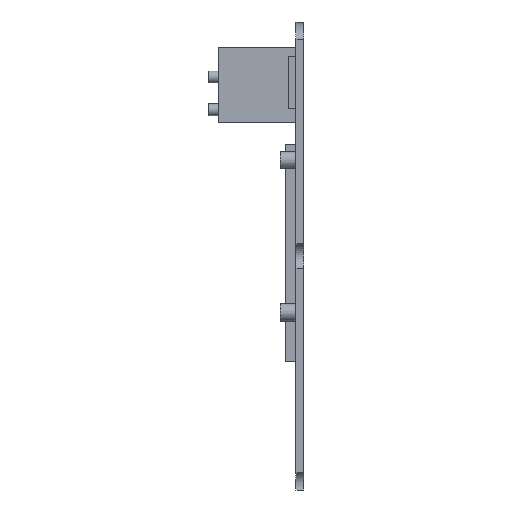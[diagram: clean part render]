
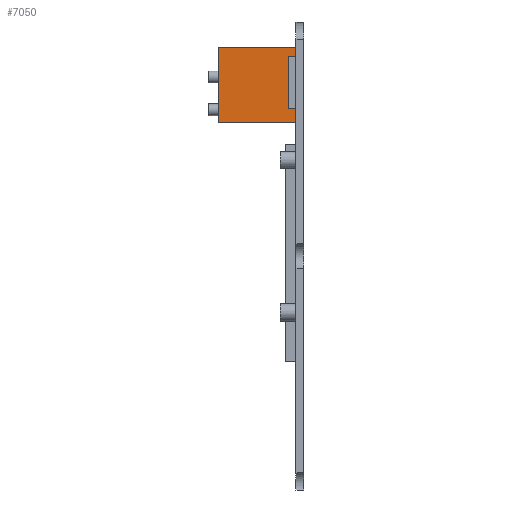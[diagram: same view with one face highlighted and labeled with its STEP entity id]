
A CAD part, left-side view. The second image highlights one B-rep face of the part: STEP entity #7050.
In plain terms, the highlighted planar face has unit normal (-1, 0, 0).
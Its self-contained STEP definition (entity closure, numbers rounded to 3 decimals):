
#100 = PLANE('',#101);
#101 = AXIS2_PLACEMENT_3D('',#102,#103,#104);
#102 = CARTESIAN_POINT('',(134.,10.,4.));
#103 = DIRECTION('',(-0.,1.,0.));
#104 = DIRECTION('',(0.,0.,-1.));
#3128 = PLANE('',#3129);
#3129 = AXIS2_PLACEMENT_3D('',#3130,#3131,#3132);
#3130 = CARTESIAN_POINT('',(86.,36.4,172.462));
#3131 = DIRECTION('',(-0.,-0.,1.));
#3132 = DIRECTION('',(1.,0.,0.));
#3184 = PLANE('',#3185);
#3185 = AXIS2_PLACEMENT_3D('',#3186,#3187,#3188);
#3186 = CARTESIAN_POINT('',(86.,36.4,143.6));
#3187 = DIRECTION('',(-0.,-0.,1.));
#3188 = DIRECTION('',(1.,0.,0.));
#3722 = VERTEX_POINT('',#3723);
#3723 = CARTESIAN_POINT('',(52.,10.,172.462));
#3773 = VERTEX_POINT('',#3774);
#3774 = CARTESIAN_POINT('',(52.,10.,143.6));
#3795 = EDGE_CURVE('',#3722,#3773,#3796,.T.);
#3796 = SURFACE_CURVE('',#3797,(#3801,#3808),.PCURVE_S1.);
#3797 = LINE('',#3798,#3799);
#3798 = CARTESIAN_POINT('',(52.,10.,73.8));
#3799 = VECTOR('',#3800,1.);
#3800 = DIRECTION('',(-0.,-0.,-1.));
#3801 = PCURVE('',#100,#3802);
#3802 = DEFINITIONAL_REPRESENTATION('',(#3803),#3807);
#3803 = LINE('',#3804,#3805);
#3804 = CARTESIAN_POINT('',(-69.8,82.));
#3805 = VECTOR('',#3806,1.);
#3806 = DIRECTION('',(1.,-0.));
#3807 = ( GEOMETRIC_REPRESENTATION_CONTEXT(2) 
PARAMETRIC_REPRESENTATION_CONTEXT() REPRESENTATION_CONTEXT('2D SPACE',''
  ) );
#3808 = PCURVE('',#3809,#3814);
#3809 = PLANE('',#3810);
#3810 = AXIS2_PLACEMENT_3D('',#3811,#3812,#3813);
#3811 = CARTESIAN_POINT('',(52.,36.4,143.6));
#3812 = DIRECTION('',(-1.,-0.,-0.));
#3813 = DIRECTION('',(0.,0.,-1.));
#3814 = DEFINITIONAL_REPRESENTATION('',(#3815),#3819);
#3815 = LINE('',#3816,#3817);
#3816 = CARTESIAN_POINT('',(69.8,26.4));
#3817 = VECTOR('',#3818,1.);
#3818 = DIRECTION('',(1.,-0.));
#3819 = ( GEOMETRIC_REPRESENTATION_CONTEXT(2) 
PARAMETRIC_REPRESENTATION_CONTEXT() REPRESENTATION_CONTEXT('2D SPACE',''
  ) );
#6632 = EDGE_CURVE('',#3722,#6633,#6635,.T.);
#6633 = VERTEX_POINT('',#6634);
#6634 = CARTESIAN_POINT('',(52.,39.4,172.462));
#6635 = SURFACE_CURVE('',#6636,(#6640,#6647),.PCURVE_S1.);
#6636 = LINE('',#6637,#6638);
#6637 = CARTESIAN_POINT('',(52.,9.99,172.462));
#6638 = VECTOR('',#6639,1.);
#6639 = DIRECTION('',(-0.,1.,-0.));
#6640 = PCURVE('',#3128,#6641);
#6641 = DEFINITIONAL_REPRESENTATION('',(#6642),#6646);
#6642 = LINE('',#6643,#6644);
#6643 = CARTESIAN_POINT('',(-34.,-26.41));
#6644 = VECTOR('',#6645,1.);
#6645 = DIRECTION('',(-0.,1.));
#6646 = ( GEOMETRIC_REPRESENTATION_CONTEXT(2) 
PARAMETRIC_REPRESENTATION_CONTEXT() REPRESENTATION_CONTEXT('2D SPACE',''
  ) );
#6647 = PCURVE('',#3809,#6648);
#6648 = DEFINITIONAL_REPRESENTATION('',(#6649),#6653);
#6649 = LINE('',#6650,#6651);
#6650 = CARTESIAN_POINT('',(-28.862,26.41));
#6651 = VECTOR('',#6652,1.);
#6652 = DIRECTION('',(-0.,-1.));
#6653 = ( GEOMETRIC_REPRESENTATION_CONTEXT(2) 
PARAMETRIC_REPRESENTATION_CONTEXT() REPRESENTATION_CONTEXT('2D SPACE',''
  ) );
#6669 = PLANE('',#6670);
#6670 = AXIS2_PLACEMENT_3D('',#6671,#6672,#6673);
#6671 = CARTESIAN_POINT('',(86.,39.4,143.6));
#6672 = DIRECTION('',(-0.,1.,0.));
#6673 = DIRECTION('',(0.,0.,-1.));
#6780 = EDGE_CURVE('',#6781,#3773,#6783,.T.);
#6781 = VERTEX_POINT('',#6782);
#6782 = CARTESIAN_POINT('',(52.,39.4,143.6));
#6783 = SURFACE_CURVE('',#6784,(#6788,#6795),.PCURVE_S1.);
#6784 = LINE('',#6785,#6786);
#6785 = CARTESIAN_POINT('',(52.,39.4,143.6));
#6786 = VECTOR('',#6787,1.);
#6787 = DIRECTION('',(-0.,-1.,-0.));
#6788 = PCURVE('',#3184,#6789);
#6789 = DEFINITIONAL_REPRESENTATION('',(#6790),#6794);
#6790 = LINE('',#6791,#6792);
#6791 = CARTESIAN_POINT('',(-34.,3.));
#6792 = VECTOR('',#6793,1.);
#6793 = DIRECTION('',(-0.,-1.));
#6794 = ( GEOMETRIC_REPRESENTATION_CONTEXT(2) 
PARAMETRIC_REPRESENTATION_CONTEXT() REPRESENTATION_CONTEXT('2D SPACE',''
  ) );
#6795 = PCURVE('',#3809,#6796);
#6796 = DEFINITIONAL_REPRESENTATION('',(#6797),#6801);
#6797 = LINE('',#6798,#6799);
#6798 = CARTESIAN_POINT('',(-0.,-3.));
#6799 = VECTOR('',#6800,1.);
#6800 = DIRECTION('',(-0.,1.));
#6801 = ( GEOMETRIC_REPRESENTATION_CONTEXT(2) 
PARAMETRIC_REPRESENTATION_CONTEXT() REPRESENTATION_CONTEXT('2D SPACE',''
  ) );
#7050 = ADVANCED_FACE('',(#7051),#3809,.T.);
#7051 = FACE_BOUND('',#7052,.F.);
#7052 = EDGE_LOOP('',(#7053,#7054,#7055,#7056));
#7053 = ORIENTED_EDGE('',*,*,#6632,.F.);
#7054 = ORIENTED_EDGE('',*,*,#3795,.T.);
#7055 = ORIENTED_EDGE('',*,*,#6780,.F.);
#7056 = ORIENTED_EDGE('',*,*,#7057,.T.);
#7057 = EDGE_CURVE('',#6781,#6633,#7058,.T.);
#7058 = SURFACE_CURVE('',#7059,(#7063,#7070),.PCURVE_S1.);
#7059 = LINE('',#7060,#7061);
#7060 = CARTESIAN_POINT('',(52.,39.4,143.6));
#7061 = VECTOR('',#7062,1.);
#7062 = DIRECTION('',(0.,0.,1.));
#7063 = PCURVE('',#3809,#7064);
#7064 = DEFINITIONAL_REPRESENTATION('',(#7065),#7069);
#7065 = LINE('',#7066,#7067);
#7066 = CARTESIAN_POINT('',(-0.,-3.));
#7067 = VECTOR('',#7068,1.);
#7068 = DIRECTION('',(-1.,-0.));
#7069 = ( GEOMETRIC_REPRESENTATION_CONTEXT(2) 
PARAMETRIC_REPRESENTATION_CONTEXT() REPRESENTATION_CONTEXT('2D SPACE',''
  ) );
#7070 = PCURVE('',#6669,#7071);
#7071 = DEFINITIONAL_REPRESENTATION('',(#7072),#7076);
#7072 = LINE('',#7073,#7074);
#7073 = CARTESIAN_POINT('',(-0.,34.));
#7074 = VECTOR('',#7075,1.);
#7075 = DIRECTION('',(-1.,0.));
#7076 = ( GEOMETRIC_REPRESENTATION_CONTEXT(2) 
PARAMETRIC_REPRESENTATION_CONTEXT() REPRESENTATION_CONTEXT('2D SPACE',''
  ) );
